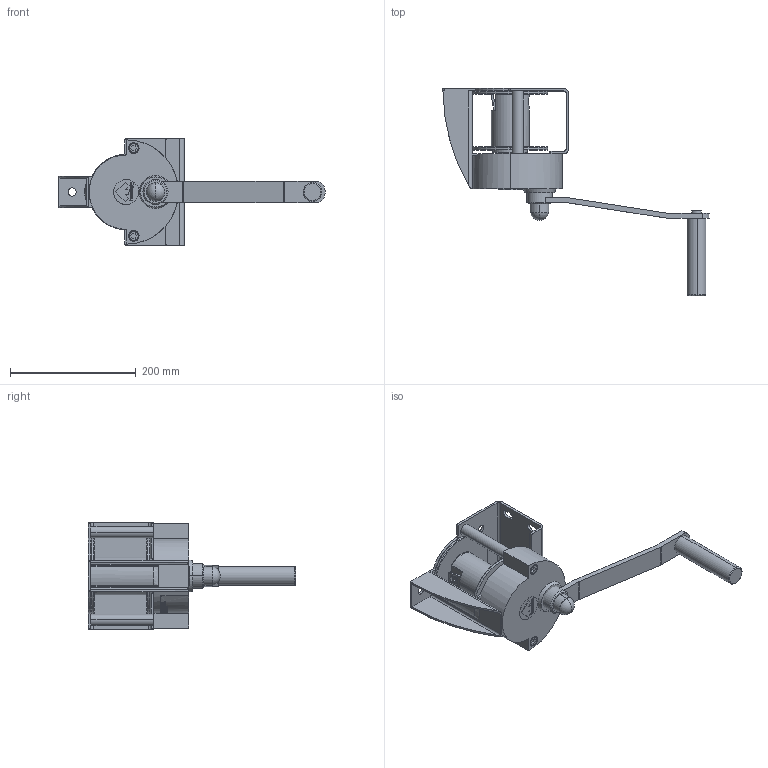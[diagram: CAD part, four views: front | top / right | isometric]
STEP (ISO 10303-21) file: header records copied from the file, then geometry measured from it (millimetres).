
FILE_DESCRIPTION(('Creo Elements/Direct Modeling STEP Export'),'2;1');
FILE_NAME('KE_500_207120.stp','2022-04-01T14:08:08',(''),(''),'Creo Elements/Direct Modeling STEP processor for AP214 (Solid Model)','Creo Elements/Direct Modeling 20.1C 13-Oct-2019 (C) Parametric Technology GmbH','');
FILE_SCHEMA(('AUTOMOTIVE_DESIGN { 1 0 10303 214 1 1 1 1 }'));
Products named in the file (3): Handseilwinde; Kurbel; Handseilwinde_Tango_KE500_207120A
Assembly tree (2 placements, depth 2):
  Handseilwinde_Tango_KE500_207120A
    Kurbel
    Handseilwinde
Bounding box: 423.68 x 329.9 x 170 mm (x, y, z)
Volume: 1757661.8 mm3; surface area: 289847.1 mm2
Topology: 2 solids, 2 shells, 592 faces, 4427 edges, 4009 vertices
Faces by surface type: cylinder 297, plane 221, cone 41, torus 19, bspline 12, sphere 2
Entity records: 73016 total; most frequent: CARTESIAN_POINT 43734, ORIENTED_EDGE 8850, EDGE_CURVE 4425, VERTEX_POINT 4009, B_SPLINE_CURVE_WITH_KNOTS 3329, DIRECTION 2086, EDGE_LOOP 790, AXIS2_PLACEMENT_3D 719
